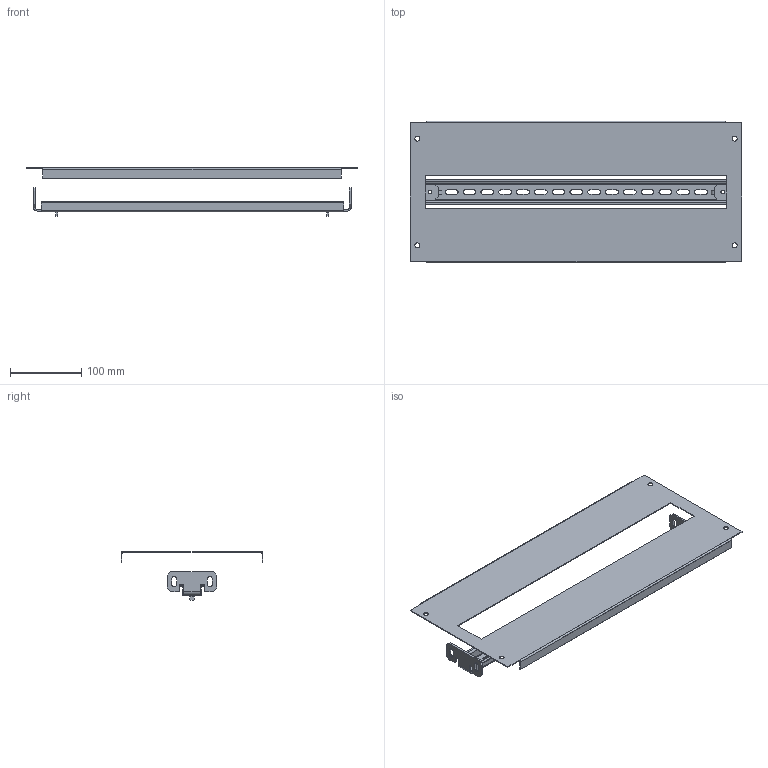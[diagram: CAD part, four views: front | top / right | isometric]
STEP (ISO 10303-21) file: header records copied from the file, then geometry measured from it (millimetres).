
FILE_DESCRIPTION (( 'STEP AP214' ), '1' );
FILE_NAME ('FBM 20.60.STEP', '2022-12-21T15:32:04', ( '' ), ( '' ), 'SwSTEP 2.0', 'SolidWorks 2018', '' );
FILE_SCHEMA (( 'AUTOMOTIVE_DESIGN' ));
Length unit declared in the file: millimetre
Products named in the file (4): FBM 20.60; MB 20.50 P; B 6 DR; DR 15.425
Assembly tree (4 placements, depth 2):
  FBM 20.60
    MB 20.50 P
    B 6 DR  x2
    DR 15.425
Bounding box: 465 x 199 x 68.5 mm (x, y, z)
Volume: 140077.9 mm3; surface area: 230410.9 mm2
Topology: 4 solids, 4 shells, 222 faces, 618 edges, 404 vertices
Faces by surface type: plane 134, cylinder 84, bspline 4
Full cylindrical faces by diameter (mm): 5.2 x2, 7 x4
Entity records: 5884 total; most frequent: CARTESIAN_POINT 1132, DIRECTION 952, ORIENTED_EDGE 948, EDGE_CURVE 474, VECTOR 340, LINE 340, VERTEX_POINT 314, AXIS2_PLACEMENT_3D 306
